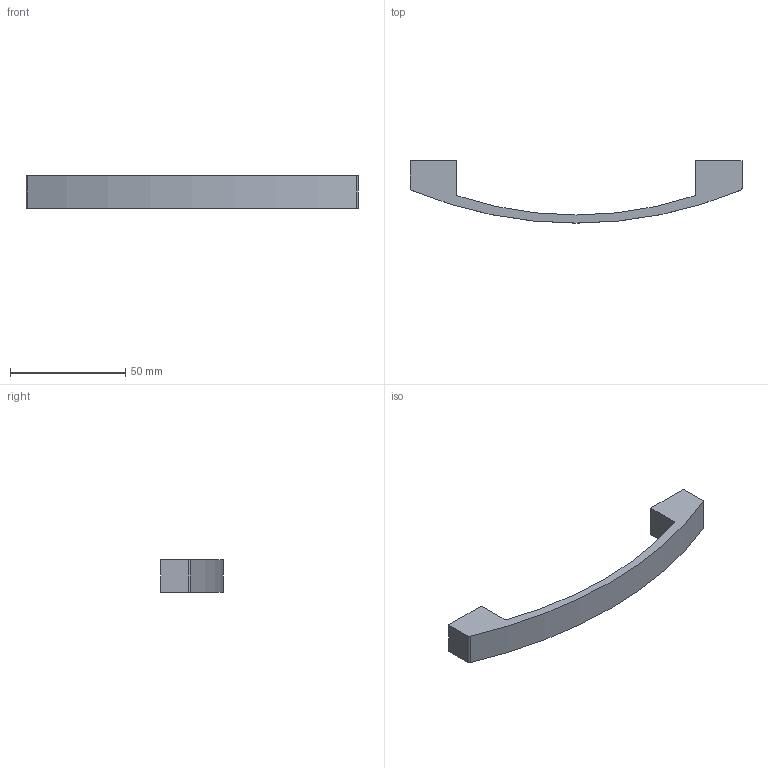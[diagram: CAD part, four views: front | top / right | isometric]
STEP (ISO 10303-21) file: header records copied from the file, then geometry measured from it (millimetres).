
FILE_DESCRIPTION( ( '' ), '1' );
FILE_NAME( 'C:/Documents and Settings/Nikhil/Desktop/Nik/Done/9113210.stp', '2013-10-24T06:27:14', ( '' ), ( '' ), ' ', ' ', ' ' );
FILE_SCHEMA( ( 'automotive_design' ) );
Length unit declared in the file: millimetre
Products named in the file (1): 1
Bounding box: 144 x 27 x 14 mm (x, y, z)
Volume: 14394.9 mm3; surface area: 7227.4 mm2
Topology: 1 solids, 1 shells, 20 faces, 48 edges, 32 vertices
Faces by surface type: cylinder 10, plane 10
Entity records: 1176 total; most frequent: DIRECTION 110, STYLED_ITEM 101, PRESENTATION_STYLE_ASSIGNMENT 101, CARTESIAN_POINT 101, COLOUR_RGB 101, ORIENTED_EDGE 96, EDGE_CURVE 48, CURVE_STYLE 48
